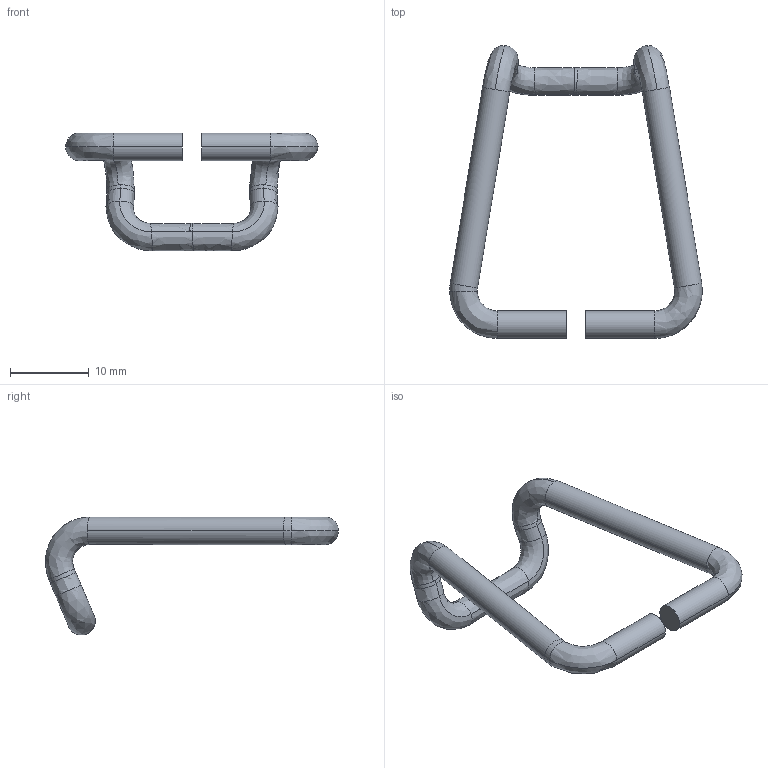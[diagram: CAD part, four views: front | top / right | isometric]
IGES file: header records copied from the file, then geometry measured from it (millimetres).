
Start section: SolidWorks IGES FILE using analytic representation for surfaces
Global section: file name: C:\Documents and Settings\brechard\Bureau\GO 566\543.200.00.IGS; native system: SolidWorks 2001Plus by SolidWorks Corporation; preprocessor: Version 5.3; author: brechard; date: 050126.101216; units: millimetre
Bounding box: 32 x 37.11 x 14.95 mm (x, y, z)
Surface area: 1404.6 mm2 (no closed solid volume)
Topology: 0 solids, 0 shells, 40 faces, 286 edges, 286 vertices
Faces by surface type: bspline 27, revolution 13
